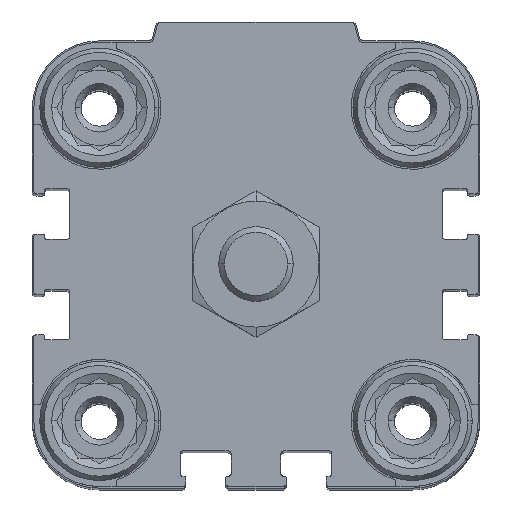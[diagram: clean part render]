
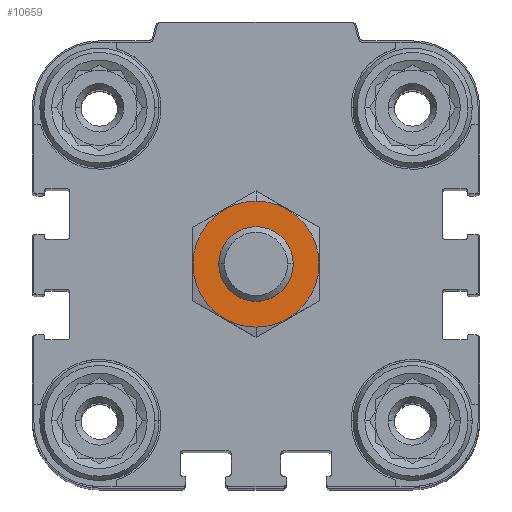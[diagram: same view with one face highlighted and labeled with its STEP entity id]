
A CAD part, top view. The second image highlights one B-rep face of the part: STEP entity #10659.
In plain terms, the highlighted planar face has unit normal (0, 0, 1).
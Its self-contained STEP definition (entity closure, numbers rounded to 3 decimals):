
#39 = VERTEX_POINT ( 'NONE', #23351 ) ;
#196 = CARTESIAN_POINT ( 'NONE',  ( 0., -8.45, 15.5 ) ) ;
#466 = DIRECTION ( 'NONE',  ( 0., 0., -1. ) ) ;
#850 = CIRCLE ( 'NONE', #12121, 5. ) ;
#1057 = ORIENTED_EDGE ( 'NONE', *, *, #7152, .F. ) ;
#1248 = CIRCLE ( 'NONE', #17177, 5. ) ;
#1707 = EDGE_CURVE ( 'NONE', #1958, #19368, #1248, .T. ) ;
#1958 = VERTEX_POINT ( 'NONE', #17020 ) ;
#2085 = EDGE_CURVE ( 'NONE', #19368, #1958, #850, .T. ) ;
#2906 = CARTESIAN_POINT ( 'NONE',  ( 0., 0., 15.5 ) ) ;
#2908 = FACE_BOUND ( 'NONE', #10531, .T. ) ;
#3234 = DIRECTION ( 'NONE',  ( 0., 0., -1. ) ) ;
#4254 = PLANE ( 'NONE',  #12208 ) ;
#4784 = CARTESIAN_POINT ( 'NONE',  ( 0., 5., 15.5 ) ) ;
#4986 = EDGE_LOOP ( 'NONE', ( #1057, #14334 ) ) ;
#6305 = DIRECTION ( 'NONE',  ( 0., -1., 0. ) ) ;
#6708 = EDGE_CURVE ( 'NONE', #39, #21909, #11345, .T. ) ;
#6879 = CARTESIAN_POINT ( 'NONE',  ( 0., 0., 15.5 ) ) ;
#7152 = EDGE_CURVE ( 'NONE', #21909, #39, #18756, .T. ) ;
#7647 = ORIENTED_EDGE ( 'NONE', *, *, #2085, .T. ) ;
#9920 = DIRECTION ( 'NONE',  ( 0., 0., -1. ) ) ;
#10204 = CARTESIAN_POINT ( 'NONE',  ( 0., 0., 15.5 ) ) ;
#10531 = EDGE_LOOP ( 'NONE', ( #7647, #20759 ) ) ;
#10646 = DIRECTION ( 'NONE',  ( 0., -1., 0. ) ) ;
#10659 = ADVANCED_FACE ( 'NONE', ( #11775, #2908 ), #4254, .F. ) ;
#11345 = CIRCLE ( 'NONE', #13271, 8.45 ) ;
#11775 = FACE_OUTER_BOUND ( 'NONE', #4986, .T. ) ;
#12121 = AXIS2_PLACEMENT_3D ( 'NONE', #2906, #17741, #19949 ) ;
#12208 = AXIS2_PLACEMENT_3D ( 'NONE', #10204, #17251, #6305 ) ;
#13271 = AXIS2_PLACEMENT_3D ( 'NONE', #13714, #466, #22868 ) ;
#13303 = AXIS2_PLACEMENT_3D ( 'NONE', #20659, #9920, #18820 ) ;
#13714 = CARTESIAN_POINT ( 'NONE',  ( 0., 0., 15.5 ) ) ;
#14334 = ORIENTED_EDGE ( 'NONE', *, *, #6708, .F. ) ;
#17020 = CARTESIAN_POINT ( 'NONE',  ( 0., -5., 15.5 ) ) ;
#17177 = AXIS2_PLACEMENT_3D ( 'NONE', #6879, #3234, #10646 ) ;
#17251 = DIRECTION ( 'NONE',  ( 0., 0., -1. ) ) ;
#17741 = DIRECTION ( 'NONE',  ( 0., 0., -1. ) ) ;
#18756 = CIRCLE ( 'NONE', #13303, 8.45 ) ;
#18820 = DIRECTION ( 'NONE',  ( 0., -1., 0. ) ) ;
#19368 = VERTEX_POINT ( 'NONE', #4784 ) ;
#19949 = DIRECTION ( 'NONE',  ( 0., -1., 0. ) ) ;
#20659 = CARTESIAN_POINT ( 'NONE',  ( 0., 0., 15.5 ) ) ;
#20759 = ORIENTED_EDGE ( 'NONE', *, *, #1707, .T. ) ;
#21909 = VERTEX_POINT ( 'NONE', #196 ) ;
#22868 = DIRECTION ( 'NONE',  ( 0., -1., 0. ) ) ;
#23351 = CARTESIAN_POINT ( 'NONE',  ( 0., 8.45, 15.5 ) ) ;
